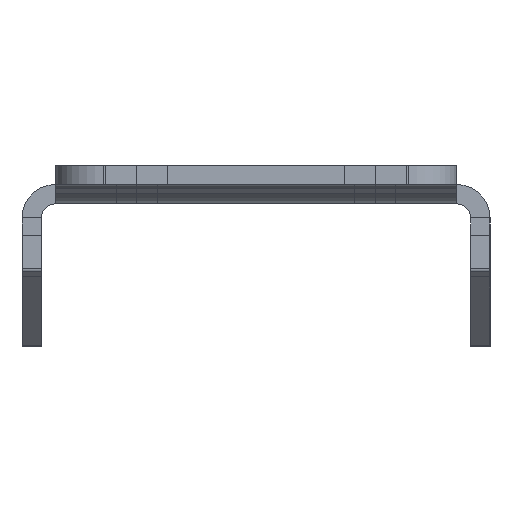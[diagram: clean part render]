
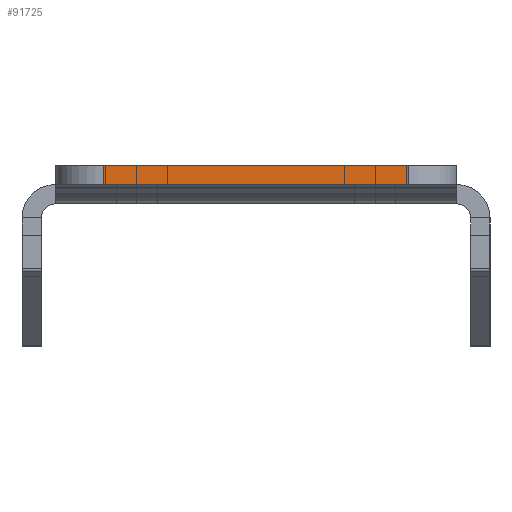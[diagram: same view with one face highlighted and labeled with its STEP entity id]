
A CAD part, left-side view. The second image highlights one B-rep face of the part: STEP entity #91725.
In plain terms, the highlighted planar face has unit normal (-1, 0, 0).
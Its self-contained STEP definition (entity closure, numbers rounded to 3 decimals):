
#532 = VERTEX_POINT ( 'NONE', #81183 ) ;
#591 = EDGE_LOOP ( 'NONE', ( #22653, #75836, #58569, #104429 ) ) ;
#6756 = CARTESIAN_POINT ( 'NONE',  ( -1076.002, 16., 7.531 ) ) ;
#9169 = VECTOR ( 'NONE', #67903, 1000. ) ;
#13709 = AXIS2_PLACEMENT_3D ( 'NONE', #87253, #16647, #50457 ) ;
#16647 = DIRECTION ( 'NONE',  ( -1., 0., 0. ) ) ;
#19567 = EDGE_CURVE ( 'NONE', #532, #26667, #38874, .T. ) ;
#21850 = EDGE_CURVE ( 'NONE', #47463, #532, #57247, .T. ) ;
#22653 = ORIENTED_EDGE ( 'NONE', *, *, #98679, .F. ) ;
#25528 = FACE_OUTER_BOUND ( 'NONE', #591, .T. ) ;
#26667 = VERTEX_POINT ( 'NONE', #93679 ) ;
#31830 = LINE ( 'NONE', #77517, #34755 ) ;
#34755 = VECTOR ( 'NONE', #95326, 1000. ) ;
#35439 = EDGE_CURVE ( 'NONE', #26667, #99347, #102916, .T. ) ;
#38842 = DIRECTION ( 'NONE',  ( 0., 0., 1. ) ) ;
#38874 = LINE ( 'NONE', #94651, #111393 ) ;
#40634 = DIRECTION ( 'NONE',  ( 0., 1., 0. ) ) ;
#47463 = VERTEX_POINT ( 'NONE', #95620 ) ;
#50457 = DIRECTION ( 'NONE',  ( 0., 0., 1. ) ) ;
#57247 = LINE ( 'NONE', #74487, #85310 ) ;
#58569 = ORIENTED_EDGE ( 'NONE', *, *, #19567, .T. ) ;
#59964 = PLANE ( 'NONE',  #13709 ) ;
#67903 = DIRECTION ( 'NONE',  ( 0., 0., -1. ) ) ;
#74487 = CARTESIAN_POINT ( 'NONE',  ( -1076.002, -16., 9.531 ) ) ;
#75836 = ORIENTED_EDGE ( 'NONE', *, *, #21850, .T. ) ;
#77517 = CARTESIAN_POINT ( 'NONE',  ( -1076.002, 0., 7.531 ) ) ;
#81183 = CARTESIAN_POINT ( 'NONE',  ( -1076.002, -16., 9.531 ) ) ;
#83964 = CARTESIAN_POINT ( 'NONE',  ( -1076.002, 16., 9.531 ) ) ;
#85310 = VECTOR ( 'NONE', #38842, 1000. ) ;
#87253 = CARTESIAN_POINT ( 'NONE',  ( -1076.002, 21., 9.531 ) ) ;
#91725 = ADVANCED_FACE ( 'NONE', ( #25528 ), #59964, .T. ) ;
#93679 = CARTESIAN_POINT ( 'NONE',  ( -1076.002, 16., 9.531 ) ) ;
#94651 = CARTESIAN_POINT ( 'NONE',  ( -1076.002, 21., 9.531 ) ) ;
#95326 = DIRECTION ( 'NONE',  ( 0., 1., 0. ) ) ;
#95620 = CARTESIAN_POINT ( 'NONE',  ( -1076.002, -16., 7.531 ) ) ;
#98679 = EDGE_CURVE ( 'NONE', #47463, #99347, #31830, .T. ) ;
#99347 = VERTEX_POINT ( 'NONE', #6756 ) ;
#102916 = LINE ( 'NONE', #83964, #9169 ) ;
#104429 = ORIENTED_EDGE ( 'NONE', *, *, #35439, .T. ) ;
#111393 = VECTOR ( 'NONE', #40634, 1000. ) ;
